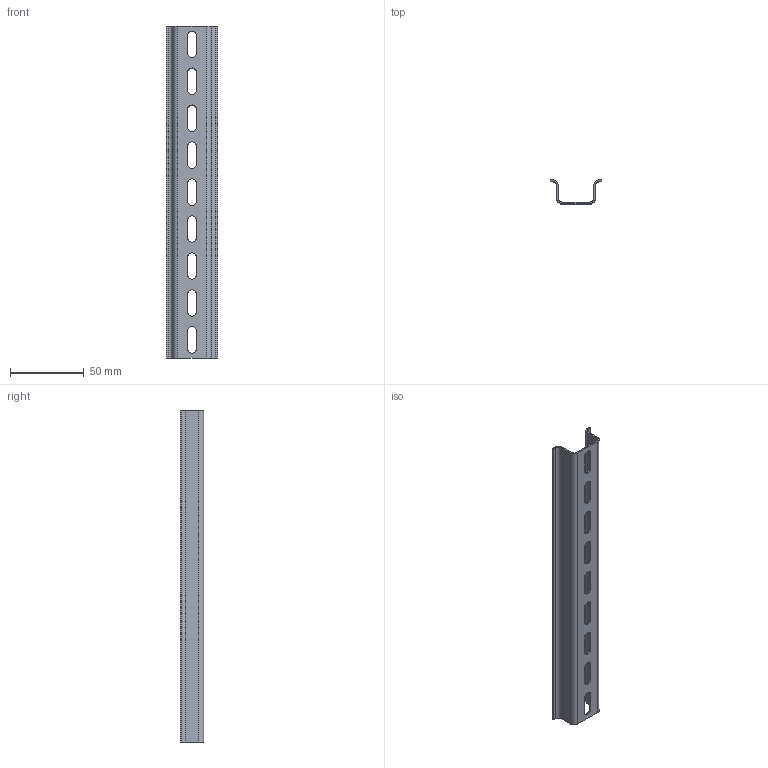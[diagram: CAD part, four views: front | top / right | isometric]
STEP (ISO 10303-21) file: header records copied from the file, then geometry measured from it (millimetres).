
FILE_DESCRIPTION (( 'STEP AP214' ), '1' );
FILE_NAME ('DIN-ðåéêà 15õ0,1 ìì 225.STEP', '2025-10-22T11:28:38', ( '' ), ( '' ), 'SwSTEP 2.0', 'SolidWorks 2018', '' );
FILE_SCHEMA (( 'AUTOMOTIVE_DESIGN' ));
Length unit declared in the file: millimetre
Products named in the file (1): DIN-ðåéêà 15õ0,1 ìì 225
Bounding box: 35.2 x 16 x 225 mm (x, y, z)
Volume: 12593.4 mm3; surface area: 26142.4 mm2
Topology: 1 solids, 1 shells, 83 faces, 211 edges, 130 vertices
Faces by surface type: plane 48, cylinder 35
Entity records: 2549 total; most frequent: DIRECTION 449, CARTESIAN_POINT 425, ORIENTED_EDGE 422, EDGE_CURVE 211, AXIS2_PLACEMENT_3D 154, LINE 141, VECTOR 141, VERTEX_POINT 130
